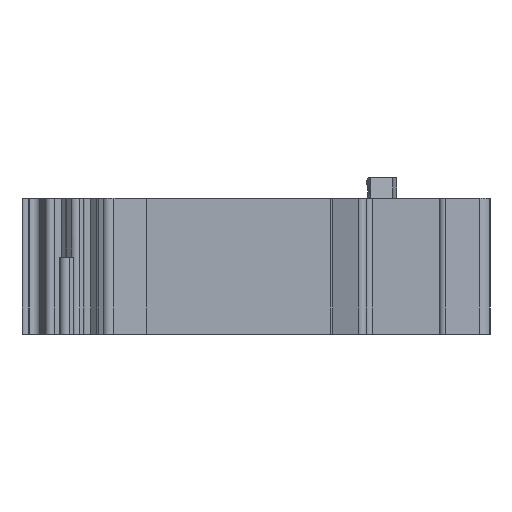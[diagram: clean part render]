
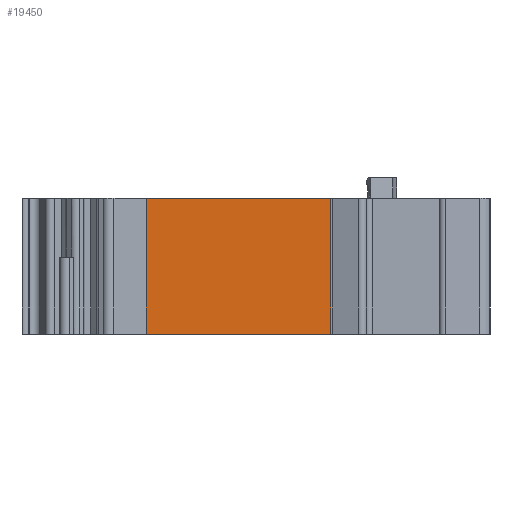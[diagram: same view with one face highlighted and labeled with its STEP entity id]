
A CAD part, left-side view. The second image highlights one B-rep face of the part: STEP entity #19450.
In plain terms, the highlighted planar face has unit normal (-1, 0, 0).
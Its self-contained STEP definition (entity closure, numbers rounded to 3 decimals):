
#164 = ORIENTED_EDGE ( 'NONE', *, *, #13613, .T. ) ;
#812 = VECTOR ( 'NONE', #2819, 1000. ) ;
#963 = VECTOR ( 'NONE', #13968, 1000. ) ;
#1788 = DIRECTION ( 'NONE',  ( 1., 0., 0. ) ) ;
#2192 = CARTESIAN_POINT ( 'NONE',  ( -24.339, 12.566, 9.684 ) ) ;
#2719 = LINE ( 'NONE', #14889, #11643 ) ;
#2819 = DIRECTION ( 'NONE',  ( 0., 0., -1. ) ) ;
#3055 = EDGE_CURVE ( 'NONE', #10423, #10899, #10963, .T. ) ;
#3348 = ORIENTED_EDGE ( 'NONE', *, *, #3055, .T. ) ;
#3473 = EDGE_LOOP ( 'NONE', ( #3348, #22812, #6362, #164 ) ) ;
#3656 = PLANE ( 'NONE',  #23021 ) ;
#4363 = CARTESIAN_POINT ( 'NONE',  ( -24.339, 12.566, -2.316 ) ) ;
#5421 = CARTESIAN_POINT ( 'NONE',  ( -24.339, 12.566, 9.684 ) ) ;
#6326 = EDGE_CURVE ( 'NONE', #8100, #15089, #18215, .T. ) ;
#6362 = ORIENTED_EDGE ( 'NONE', *, *, #6326, .F. ) ;
#7976 = CARTESIAN_POINT ( 'NONE',  ( -24.339, -3.705, 9.684 ) ) ;
#8100 = VERTEX_POINT ( 'NONE', #2192 ) ;
#8350 = CARTESIAN_POINT ( 'NONE',  ( -24.339, -3.705, -2.316 ) ) ;
#10423 = VERTEX_POINT ( 'NONE', #4363 ) ;
#10509 = DIRECTION ( 'NONE',  ( 0., -1., 0. ) ) ;
#10899 = VERTEX_POINT ( 'NONE', #8350 ) ;
#10937 = VECTOR ( 'NONE', #10509, 1000. ) ;
#10963 = LINE ( 'NONE', #16529, #10937 ) ;
#11643 = VECTOR ( 'NONE', #25349, 1000. ) ;
#13613 = EDGE_CURVE ( 'NONE', #8100, #10423, #2719, .T. ) ;
#13651 = EDGE_CURVE ( 'NONE', #15089, #10899, #23173, .T. ) ;
#13968 = DIRECTION ( 'NONE',  ( 0., -1., 0. ) ) ;
#14166 = DIRECTION ( 'NONE',  ( 0., 0., -1. ) ) ;
#14889 = CARTESIAN_POINT ( 'NONE',  ( -24.339, 12.566, 9.684 ) ) ;
#15089 = VERTEX_POINT ( 'NONE', #7976 ) ;
#16529 = CARTESIAN_POINT ( 'NONE',  ( -24.339, 12.566, -2.316 ) ) ;
#18215 = LINE ( 'NONE', #5421, #963 ) ;
#19450 = ADVANCED_FACE ( 'NONE', ( #19974 ), #3656, .F. ) ;
#19974 = FACE_OUTER_BOUND ( 'NONE', #3473, .T. ) ;
#20947 = CARTESIAN_POINT ( 'NONE',  ( -24.339, -3.705, 9.684 ) ) ;
#22812 = ORIENTED_EDGE ( 'NONE', *, *, #13651, .F. ) ;
#23021 = AXIS2_PLACEMENT_3D ( 'NONE', #24380, #1788, #14166 ) ;
#23173 = LINE ( 'NONE', #20947, #812 ) ;
#24380 = CARTESIAN_POINT ( 'NONE',  ( -24.339, 12.566, 9.684 ) ) ;
#25349 = DIRECTION ( 'NONE',  ( 0., 0., -1. ) ) ;
